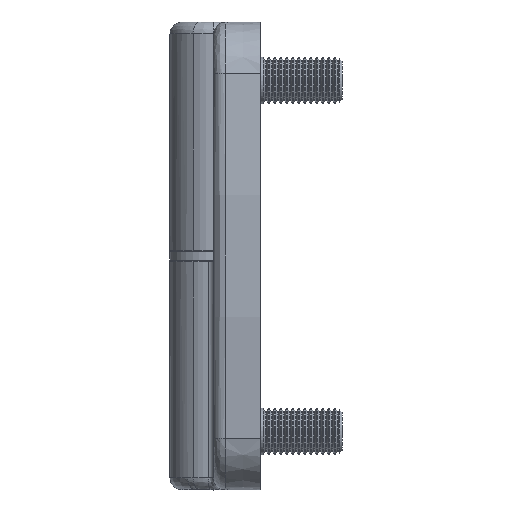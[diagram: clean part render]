
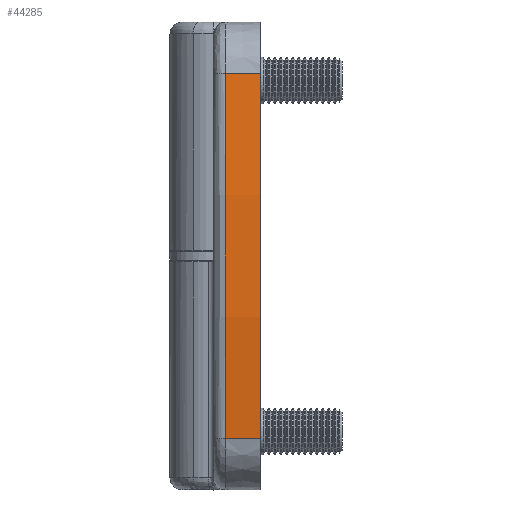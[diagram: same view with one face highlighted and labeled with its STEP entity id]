
A CAD part, left-side view. The second image highlights one B-rep face of the part: STEP entity #44285.
In plain terms, the highlighted conical face has half-angle 0.5 degrees and reference radius 250 mm.
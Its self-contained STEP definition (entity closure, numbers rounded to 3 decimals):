
#4137 = ORIENTED_EDGE ( 'NONE', *, *, #45279, .F. ) ;
#4199 = ORIENTED_EDGE ( 'NONE', *, *, #45274, .T. ) ;
#4221 = ORIENTED_EDGE ( 'NONE', *, *, #45276, .F. ) ;
#4232 = ORIENTED_EDGE ( 'NONE', *, *, #45278, .F. ) ;
#8301 = LINE ( 'NONE', #11020, #8307 ) ;
#8302 = CIRCLE ( 'NONE', #8901, 249.947 ) ;
#8305 = VECTOR ( 'NONE', #11028, 1000. ) ;
#8306 = LINE ( 'NONE', #11027, #8305 ) ;
#8307 = VECTOR ( 'NONE', #11026, 1000. ) ;
#8331 = CIRCLE ( 'NONE', #8895, 250. ) ;
#8895 = AXIS2_PLACEMENT_3D ( 'NONE', #11015, #11016, #11017 ) ;
#8901 = AXIS2_PLACEMENT_3D ( 'NONE', #11018, #11021, #11022 ) ;
#11015 = CARTESIAN_POINT ( 'NONE',  ( 217.5, -8.5, 0. ) ) ;
#11016 = DIRECTION ( 'NONE',  ( 0., 1., 0. ) ) ;
#11017 = DIRECTION ( 'NONE',  ( 1., 0., 0. ) ) ;
#11018 = CARTESIAN_POINT ( 'NONE',  ( 217.5, -2.483, 0. ) ) ;
#11020 = CARTESIAN_POINT ( 'NONE',  ( -30.539, -8.5, 31.25 ) ) ;
#11021 = DIRECTION ( 'NONE',  ( 0., 1., 0. ) ) ;
#11022 = DIRECTION ( 'NONE',  ( 0., 0., -1. ) ) ;
#11026 = DIRECTION ( 'NONE',  ( -0.009, -1., 0.001 ) ) ;
#11027 = CARTESIAN_POINT ( 'NONE',  ( -30.539, -8.5, -31.25 ) ) ;
#11028 = DIRECTION ( 'NONE',  ( 0.009, 1., 0.001 ) ) ;
#22484 = VERTEX_POINT ( 'NONE', #42518 ) ;
#22507 = VERTEX_POINT ( 'NONE', #42092 ) ;
#22564 = VERTEX_POINT ( 'NONE', #42560 ) ;
#22573 = VERTEX_POINT ( 'NONE', #42297 ) ;
#24590 = FACE_OUTER_BOUND ( 'NONE', #32876, .T. ) ;
#24614 = CONICAL_SURFACE ( 'NONE', #25473, 250., 0.009 ) ;
#25473 = AXIS2_PLACEMENT_3D ( 'NONE', #34408, #34288, #34291 ) ;
#32876 = EDGE_LOOP ( 'NONE', ( #4199, #4232, #4221, #4137 ) ) ;
#34288 = DIRECTION ( 'NONE',  ( 0., -1., 0. ) ) ;
#34291 = DIRECTION ( 'NONE',  ( 1., 0., 0. ) ) ;
#34408 = CARTESIAN_POINT ( 'NONE',  ( 217.5, -8.5, 0. ) ) ;
#42092 = CARTESIAN_POINT ( 'NONE',  ( -30.487, -2.483, -31.243 ) ) ;
#42297 = CARTESIAN_POINT ( 'NONE',  ( -30.539, -8.5, 31.25 ) ) ;
#42518 = CARTESIAN_POINT ( 'NONE',  ( -30.487, -2.483, 31.243 ) ) ;
#42560 = CARTESIAN_POINT ( 'NONE',  ( -30.539, -8.5, -31.25 ) ) ;
#44285 = ADVANCED_FACE ( 'NONE', ( #24590 ), #24614, .T. ) ;
#45274 = EDGE_CURVE ( 'NONE', #22564, #22573, #8331, .T. ) ;
#45276 = EDGE_CURVE ( 'NONE', #22507, #22484, #8302, .T. ) ;
#45278 = EDGE_CURVE ( 'NONE', #22484, #22573, #8301, .T. ) ;
#45279 = EDGE_CURVE ( 'NONE', #22564, #22507, #8306, .T. ) ;
